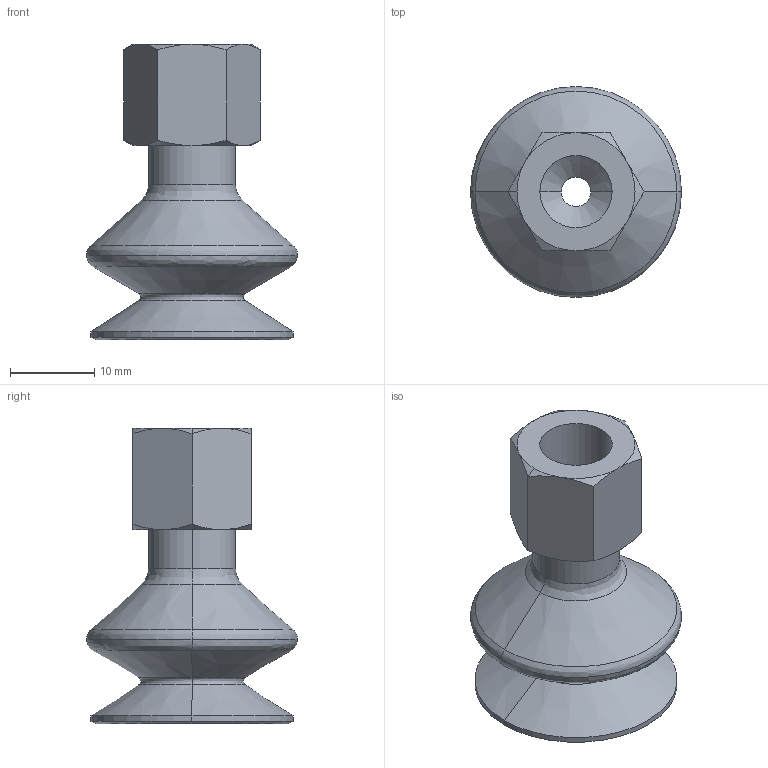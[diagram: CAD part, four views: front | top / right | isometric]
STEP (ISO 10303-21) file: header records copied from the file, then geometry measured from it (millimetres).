
FILE_DESCRIPTION (( 'STEP AP203' ), '1' );
FILE_NAME ('FSGA-25-NBR-55.STEP', '2024-07-18T03:18:58', ( '微软用户' ), ( '微软中国' ), 'SwSTEP 2.0', 'SolidWorks 2018', '' );
FILE_SCHEMA (( 'CONFIG_CONTROL_DESIGN' ));
Length unit declared in the file: millimetre
Products named in the file (1): FSGA-25-NBR-55
Bounding box: 25 x 25 x 35 mm (x, y, z)
Volume: 3924.7 mm3; surface area: 4284.6 mm2
Topology: 1 solids, 1 shells, 62 faces, 128 edges, 69 vertices
Faces by surface type: cone 29, bspline 14, cylinder 10, plane 9
Entity records: 1918 total; most frequent: CARTESIAN_POINT 590, DIRECTION 273, ORIENTED_EDGE 256, EDGE_CURVE 128, AXIS2_PLACEMENT_3D 120, CIRCLE 71, VERTEX_POINT 69, EDGE_LOOP 65
